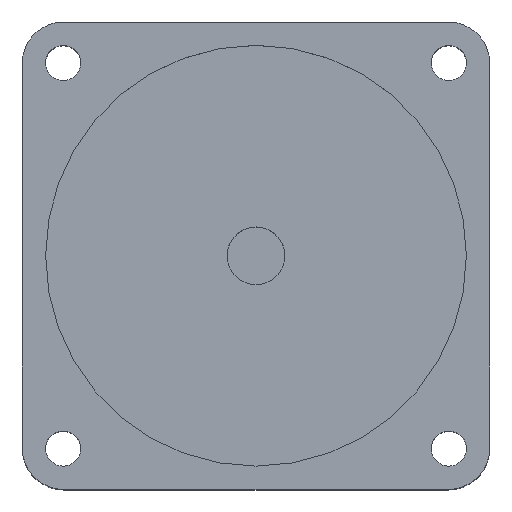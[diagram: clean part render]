
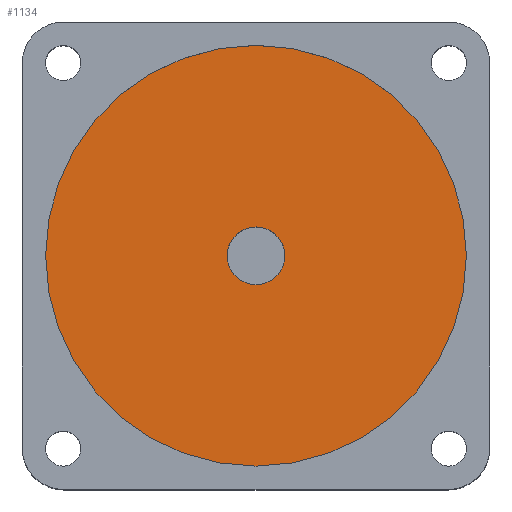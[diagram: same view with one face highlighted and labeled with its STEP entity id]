
A CAD part, top view. The second image highlights one B-rep face of the part: STEP entity #1134.
In plain terms, the highlighted planar face has unit normal (0, 0, 1).
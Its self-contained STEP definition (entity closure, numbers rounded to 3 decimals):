
#11 = EDGE_CURVE ( 'NONE', #282, #313, #1033, .T. ) ;
#15 = EDGE_LOOP ( 'NONE', ( #149, #616 ) ) ;
#66 = CARTESIAN_POINT ( 'NONE',  ( 27., 0., -2. ) ) ;
#84 = CIRCLE ( 'NONE', #951, 3.7 ) ;
#149 = ORIENTED_EDGE ( 'NONE', *, *, #198, .T. ) ;
#180 = AXIS2_PLACEMENT_3D ( 'NONE', #517, #236, #884 ) ;
#183 = CARTESIAN_POINT ( 'NONE',  ( -3.7, 0., -2. ) ) ;
#198 = EDGE_CURVE ( 'NONE', #685, #816, #84, .T. ) ;
#210 = PLANE ( 'NONE',  #497 ) ;
#219 = DIRECTION ( 'NONE',  ( 0., 0., 1. ) ) ;
#232 = CIRCLE ( 'NONE', #701, 3.7 ) ;
#236 = DIRECTION ( 'NONE',  ( 0., 0., 1. ) ) ;
#245 = ORIENTED_EDGE ( 'NONE', *, *, #1081, .T. ) ;
#282 = VERTEX_POINT ( 'NONE', #1193 ) ;
#283 = DIRECTION ( 'NONE',  ( 1., 0., 0. ) ) ;
#313 = VERTEX_POINT ( 'NONE', #66 ) ;
#336 = FACE_OUTER_BOUND ( 'NONE', #490, .T. ) ;
#351 = CARTESIAN_POINT ( 'NONE',  ( 0., 0., -2. ) ) ;
#366 = DIRECTION ( 'NONE',  ( 1., 0., 0. ) ) ;
#490 = EDGE_LOOP ( 'NONE', ( #245, #962 ) ) ;
#497 = AXIS2_PLACEMENT_3D ( 'NONE', #769, #219, #1048 ) ;
#517 = CARTESIAN_POINT ( 'NONE',  ( 0., 0., -2. ) ) ;
#528 = FACE_BOUND ( 'NONE', #15, .T. ) ;
#579 = DIRECTION ( 'NONE',  ( 0., 0., -1. ) ) ;
#586 = CARTESIAN_POINT ( 'NONE',  ( 0., 0., -2. ) ) ;
#616 = ORIENTED_EDGE ( 'NONE', *, *, #980, .T. ) ;
#664 = CARTESIAN_POINT ( 'NONE',  ( 0., 0., -2. ) ) ;
#685 = VERTEX_POINT ( 'NONE', #1079 ) ;
#701 = AXIS2_PLACEMENT_3D ( 'NONE', #586, #579, #283 ) ;
#749 = CIRCLE ( 'NONE', #801, 27. ) ;
#769 = CARTESIAN_POINT ( 'NONE',  ( 0., 0., -2. ) ) ;
#801 = AXIS2_PLACEMENT_3D ( 'NONE', #664, #1028, #840 ) ;
#816 = VERTEX_POINT ( 'NONE', #183 ) ;
#840 = DIRECTION ( 'NONE',  ( 1., 0., 0. ) ) ;
#884 = DIRECTION ( 'NONE',  ( 1., 0., 0. ) ) ;
#890 = DIRECTION ( 'NONE',  ( 0., 0., -1. ) ) ;
#951 = AXIS2_PLACEMENT_3D ( 'NONE', #351, #890, #366 ) ;
#962 = ORIENTED_EDGE ( 'NONE', *, *, #11, .T. ) ;
#980 = EDGE_CURVE ( 'NONE', #816, #685, #232, .T. ) ;
#1028 = DIRECTION ( 'NONE',  ( 0., 0., 1. ) ) ;
#1033 = CIRCLE ( 'NONE', #180, 27. ) ;
#1048 = DIRECTION ( 'NONE',  ( 1., 0., 0. ) ) ;
#1079 = CARTESIAN_POINT ( 'NONE',  ( 3.7, 0., -2. ) ) ;
#1081 = EDGE_CURVE ( 'NONE', #313, #282, #749, .T. ) ;
#1134 = ADVANCED_FACE ( 'NONE', ( #336, #528 ), #210, .T. ) ;
#1193 = CARTESIAN_POINT ( 'NONE',  ( -27., 0., -2. ) ) ;
